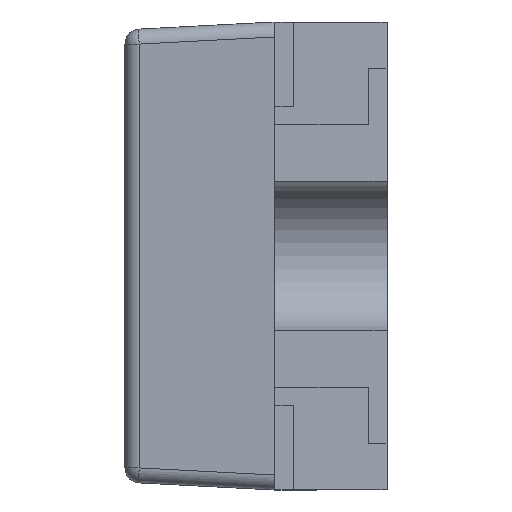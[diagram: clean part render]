
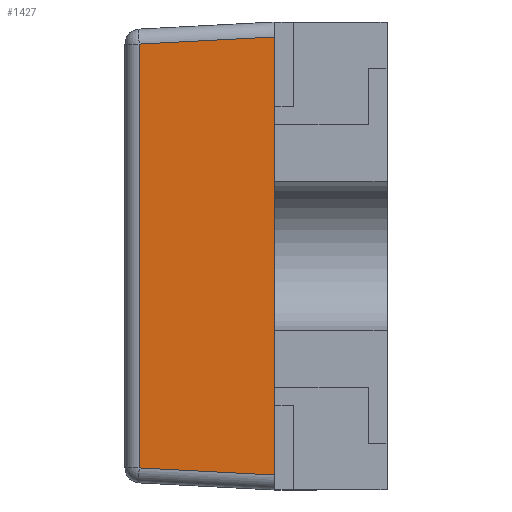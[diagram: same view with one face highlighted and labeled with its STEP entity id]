
A CAD part, left-side view. The second image highlights one B-rep face of the part: STEP entity #1427.
In plain terms, the highlighted planar face has unit normal (-0.999, 0.052, 0).
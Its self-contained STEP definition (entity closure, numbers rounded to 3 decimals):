
#8 = EDGE_CURVE ( 'NONE', #1586, #2842, #192, .T. ) ;
#13 = CARTESIAN_POINT ( 'NONE',  ( -0.7, 0.15, -0.18 ) ) ;
#84 = LINE ( 'NONE', #2797, #3160 ) ;
#122 = VECTOR ( 'NONE', #1543, 1000. ) ;
#183 = VERTEX_POINT ( 'NONE', #520 ) ;
#192 = LINE ( 'NONE', #2405, #3371 ) ;
#278 = DIRECTION ( 'NONE',  ( 0., 0., 1. ) ) ;
#279 = CARTESIAN_POINT ( 'NONE',  ( -0.7, 0.15, -0.265 ) ) ;
#302 = ORIENTED_EDGE ( 'NONE', *, *, #1571, .T. ) ;
#519 = LINE ( 'NONE', #3253, #1237 ) ;
#520 = CARTESIAN_POINT ( 'NONE',  ( -0.7, 0.15, 0.18 ) ) ;
#717 = LINE ( 'NONE', #1558, #122 ) ;
#903 = EDGE_LOOP ( 'NONE', ( #2056, #1191, #1631, #2998, #3310, #3721, #302, #2252 ) ) ;
#945 = FACE_OUTER_BOUND ( 'NONE', #903, .T. ) ;
#1017 = CARTESIAN_POINT ( 'NONE',  ( -0.681, 0.512, 0.566 ) ) ;
#1173 = DIRECTION ( 'NONE',  ( -0.999, 0.052, 0. ) ) ;
#1191 = ORIENTED_EDGE ( 'NONE', *, *, #1517, .T. ) ;
#1237 = VECTOR ( 'NONE', #3892, 1000. ) ;
#1250 = CARTESIAN_POINT ( 'NONE',  ( -0.681, 0.512, -0.566 ) ) ;
#1311 = EDGE_CURVE ( 'NONE', #3550, #1586, #3126, .T. ) ;
#1427 = ADVANCED_FACE ( 'NONE', ( #945 ), #1781, .T. ) ;
#1507 = DIRECTION ( 'NONE',  ( -0.052, -0.997, -0.052 ) ) ;
#1517 = EDGE_CURVE ( 'NONE', #3671, #3550, #2926, .T. ) ;
#1518 = LINE ( 'NONE', #2358, #3063 ) ;
#1543 = DIRECTION ( 'NONE',  ( 0., 0., 1. ) ) ;
#1547 = VERTEX_POINT ( 'NONE', #13 ) ;
#1558 = CARTESIAN_POINT ( 'NONE',  ( -0.7, 0.15, -0.625 ) ) ;
#1571 = EDGE_CURVE ( 'NONE', #1547, #183, #84, .T. ) ;
#1586 = VERTEX_POINT ( 'NONE', #1250 ) ;
#1631 = ORIENTED_EDGE ( 'NONE', *, *, #1311, .T. ) ;
#1633 = VERTEX_POINT ( 'NONE', #279 ) ;
#1679 = EDGE_CURVE ( 'NONE', #3711, #3671, #717, .T. ) ;
#1781 = PLANE ( 'NONE',  #1929 ) ;
#1849 = CARTESIAN_POINT ( 'NONE',  ( -0.7, 0.15, -0.585 ) ) ;
#1929 = AXIS2_PLACEMENT_3D ( 'NONE', #3039, #1173, #3324 ) ;
#2056 = ORIENTED_EDGE ( 'NONE', *, *, #1679, .T. ) ;
#2079 = CARTESIAN_POINT ( 'NONE',  ( -0.681, 0.512, -0.625 ) ) ;
#2127 = LINE ( 'NONE', #3338, #2865 ) ;
#2201 = VECTOR ( 'NONE', #3356, 1000. ) ;
#2252 = ORIENTED_EDGE ( 'NONE', *, *, #3625, .T. ) ;
#2284 = VECTOR ( 'NONE', #2379, 1000. ) ;
#2358 = CARTESIAN_POINT ( 'NONE',  ( -0.7, 0.15, -0.625 ) ) ;
#2379 = DIRECTION ( 'NONE',  ( 0., 0., -1. ) ) ;
#2405 = CARTESIAN_POINT ( 'NONE',  ( -0.7, 0.148, -0.585 ) ) ;
#2431 = EDGE_CURVE ( 'NONE', #1633, #1547, #1518, .T. ) ;
#2680 = DIRECTION ( 'NONE',  ( 0., 0., 1. ) ) ;
#2681 = CARTESIAN_POINT ( 'NONE',  ( -0.7, 0.15, 0.265 ) ) ;
#2797 = CARTESIAN_POINT ( 'NONE',  ( -0.7, 0.15, -0.625 ) ) ;
#2842 = VERTEX_POINT ( 'NONE', #1849 ) ;
#2865 = VECTOR ( 'NONE', #278, 1000. ) ;
#2926 = LINE ( 'NONE', #3964, #2201 ) ;
#2998 = ORIENTED_EDGE ( 'NONE', *, *, #8, .T. ) ;
#3039 = CARTESIAN_POINT ( 'NONE',  ( -0.7, 0.15, -0.625 ) ) ;
#3063 = VECTOR ( 'NONE', #2680, 1000. ) ;
#3105 = EDGE_CURVE ( 'NONE', #2842, #1633, #2127, .T. ) ;
#3107 = DIRECTION ( 'NONE',  ( 0., 0., 1. ) ) ;
#3126 = LINE ( 'NONE', #2079, #2284 ) ;
#3160 = VECTOR ( 'NONE', #3107, 1000. ) ;
#3253 = CARTESIAN_POINT ( 'NONE',  ( -0.7, 0.15, -0.625 ) ) ;
#3310 = ORIENTED_EDGE ( 'NONE', *, *, #3105, .T. ) ;
#3324 = DIRECTION ( 'NONE',  ( -0.052, -0.999, 0. ) ) ;
#3338 = CARTESIAN_POINT ( 'NONE',  ( -0.7, 0.15, -0.625 ) ) ;
#3356 = DIRECTION ( 'NONE',  ( 0.052, 0.997, -0.052 ) ) ;
#3371 = VECTOR ( 'NONE', #1507, 1000. ) ;
#3550 = VERTEX_POINT ( 'NONE', #1017 ) ;
#3588 = CARTESIAN_POINT ( 'NONE',  ( -0.7, 0.15, 0.585 ) ) ;
#3625 = EDGE_CURVE ( 'NONE', #183, #3711, #519, .T. ) ;
#3671 = VERTEX_POINT ( 'NONE', #3588 ) ;
#3711 = VERTEX_POINT ( 'NONE', #2681 ) ;
#3721 = ORIENTED_EDGE ( 'NONE', *, *, #2431, .T. ) ;
#3892 = DIRECTION ( 'NONE',  ( 0., 0., 1. ) ) ;
#3964 = CARTESIAN_POINT ( 'NONE',  ( -0.697, 0.213, 0.582 ) ) ;
